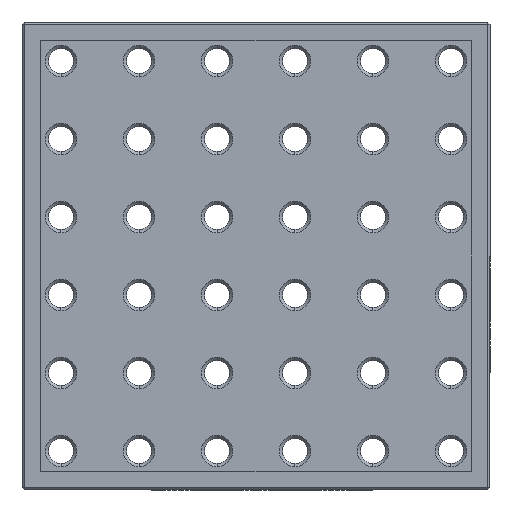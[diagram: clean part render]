
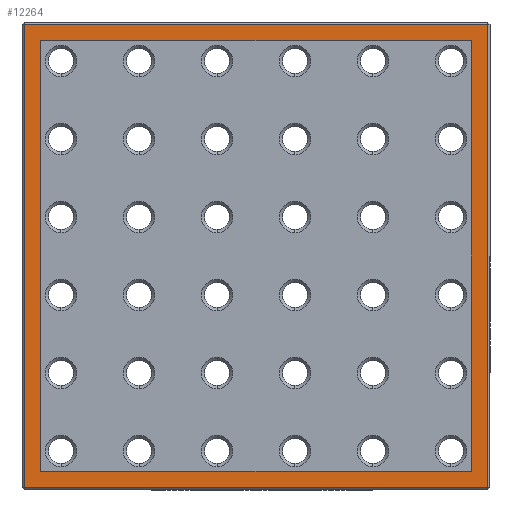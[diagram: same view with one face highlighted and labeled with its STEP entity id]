
A CAD part, front view. The second image highlights one B-rep face of the part: STEP entity #12264.
In plain terms, the highlighted planar face has unit normal (0, -1, 0).
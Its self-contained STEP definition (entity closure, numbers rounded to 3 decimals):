
#271 = VERTEX_POINT ( 'NONE', #15500 ) ;
#418 = ORIENTED_EDGE ( 'NONE', *, *, #13631, .T. ) ;
#609 = ORIENTED_EDGE ( 'NONE', *, *, #6081, .F. ) ;
#1361 = CARTESIAN_POINT ( 'NONE',  ( 138., -100., 0. ) ) ;
#1538 = LINE ( 'NONE', #7902, #10846 ) ;
#1689 = VECTOR ( 'NONE', #17484, 1000. ) ;
#1801 = VECTOR ( 'NONE', #4145, 1000. ) ;
#1814 = EDGE_LOOP ( 'NONE', ( #2650, #6810, #3270, #609 ) ) ;
#2119 = DIRECTION ( 'NONE',  ( 0., 0., -1. ) ) ;
#2336 = CARTESIAN_POINT ( 'NONE',  ( -138., -100., 138. ) ) ;
#2447 = VERTEX_POINT ( 'NONE', #12536 ) ;
#2650 = ORIENTED_EDGE ( 'NONE', *, *, #12883, .F. ) ;
#3105 = LINE ( 'NONE', #9603, #18616 ) ;
#3110 = VERTEX_POINT ( 'NONE', #13086 ) ;
#3187 = LINE ( 'NONE', #3637, #13873 ) ;
#3270 = ORIENTED_EDGE ( 'NONE', *, *, #5335, .T. ) ;
#3637 = CARTESIAN_POINT ( 'NONE',  ( 148.5, -100., -150. ) ) ;
#4008 = CARTESIAN_POINT ( 'NONE',  ( 0., -100., 0. ) ) ;
#4145 = DIRECTION ( 'NONE',  ( -1., 0., 0. ) ) ;
#4360 = VECTOR ( 'NONE', #6021, 1000. ) ;
#4390 = CARTESIAN_POINT ( 'NONE',  ( -138., -100., -138. ) ) ;
#4834 = EDGE_CURVE ( 'NONE', #5622, #2447, #15014, .T. ) ;
#5335 = EDGE_CURVE ( 'NONE', #14029, #3110, #8198, .T. ) ;
#5477 = DIRECTION ( 'NONE',  ( 0., 1., 0. ) ) ;
#5622 = VERTEX_POINT ( 'NONE', #6783 ) ;
#6021 = DIRECTION ( 'NONE',  ( 1., 0., 0. ) ) ;
#6081 = EDGE_CURVE ( 'NONE', #18910, #3110, #3187, .T. ) ;
#6321 = CARTESIAN_POINT ( 'NONE',  ( 138., -100., 138. ) ) ;
#6582 = EDGE_CURVE ( 'NONE', #7349, #14360, #16821, .T. ) ;
#6617 = LINE ( 'NONE', #1361, #10437 ) ;
#6783 = CARTESIAN_POINT ( 'NONE',  ( 138., -100., -138. ) ) ;
#6810 = ORIENTED_EDGE ( 'NONE', *, *, #7415, .T. ) ;
#7349 = VERTEX_POINT ( 'NONE', #6321 ) ;
#7415 = EDGE_CURVE ( 'NONE', #271, #14029, #1538, .T. ) ;
#7902 = CARTESIAN_POINT ( 'NONE',  ( -148.5, -100., -150. ) ) ;
#8198 = LINE ( 'NONE', #14632, #4360 ) ;
#8353 = FACE_OUTER_BOUND ( 'NONE', #1814, .T. ) ;
#8750 = CARTESIAN_POINT ( 'NONE',  ( -138., -100., 0. ) ) ;
#9257 = FACE_BOUND ( 'NONE', #11844, .T. ) ;
#9603 = CARTESIAN_POINT ( 'NONE',  ( 0., -100., 148.5 ) ) ;
#10037 = DIRECTION ( 'NONE',  ( 0., 0., 1. ) ) ;
#10437 = VECTOR ( 'NONE', #10037, 1000. ) ;
#10846 = VECTOR ( 'NONE', #2119, 1000. ) ;
#11066 = ORIENTED_EDGE ( 'NONE', *, *, #4834, .T. ) ;
#11080 = CARTESIAN_POINT ( 'NONE',  ( -148.5, -100., -148.5 ) ) ;
#11146 = VECTOR ( 'NONE', #13074, 1000. ) ;
#11646 = CARTESIAN_POINT ( 'NONE',  ( -138., -100., 138. ) ) ;
#11766 = CARTESIAN_POINT ( 'NONE',  ( 148.5, -100., 148.5 ) ) ;
#11844 = EDGE_LOOP ( 'NONE', ( #418, #13471, #12768, #11066 ) ) ;
#12264 = ADVANCED_FACE ( 'NONE', ( #8353, #9257 ), #12710, .F. ) ;
#12536 = CARTESIAN_POINT ( 'NONE',  ( -138., -100., -138. ) ) ;
#12710 = PLANE ( 'NONE',  #18916 ) ;
#12768 = ORIENTED_EDGE ( 'NONE', *, *, #17566, .F. ) ;
#12883 = EDGE_CURVE ( 'NONE', #271, #18910, #3105, .T. ) ;
#13074 = DIRECTION ( 'NONE',  ( -1., 0., 0. ) ) ;
#13086 = CARTESIAN_POINT ( 'NONE',  ( 148.5, -100., -148.5 ) ) ;
#13471 = ORIENTED_EDGE ( 'NONE', *, *, #6582, .F. ) ;
#13631 = EDGE_CURVE ( 'NONE', #2447, #14360, #16708, .T. ) ;
#13796 = DIRECTION ( 'NONE',  ( 0., 0., -1. ) ) ;
#13873 = VECTOR ( 'NONE', #13796, 1000. ) ;
#14029 = VERTEX_POINT ( 'NONE', #11080 ) ;
#14360 = VERTEX_POINT ( 'NONE', #2336 ) ;
#14632 = CARTESIAN_POINT ( 'NONE',  ( 0., -100., -148.5 ) ) ;
#15014 = LINE ( 'NONE', #4390, #11146 ) ;
#15500 = CARTESIAN_POINT ( 'NONE',  ( -148.5, -100., 148.5 ) ) ;
#15622 = DIRECTION ( 'NONE',  ( 0., 0., 1. ) ) ;
#16708 = LINE ( 'NONE', #8750, #1689 ) ;
#16821 = LINE ( 'NONE', #11646, #1801 ) ;
#16935 = DIRECTION ( 'NONE',  ( 1., 0., 0. ) ) ;
#17484 = DIRECTION ( 'NONE',  ( 0., 0., 1. ) ) ;
#17566 = EDGE_CURVE ( 'NONE', #5622, #7349, #6617, .T. ) ;
#18616 = VECTOR ( 'NONE', #16935, 1000. ) ;
#18910 = VERTEX_POINT ( 'NONE', #11766 ) ;
#18916 = AXIS2_PLACEMENT_3D ( 'NONE', #4008, #5477, #15622 ) ;
